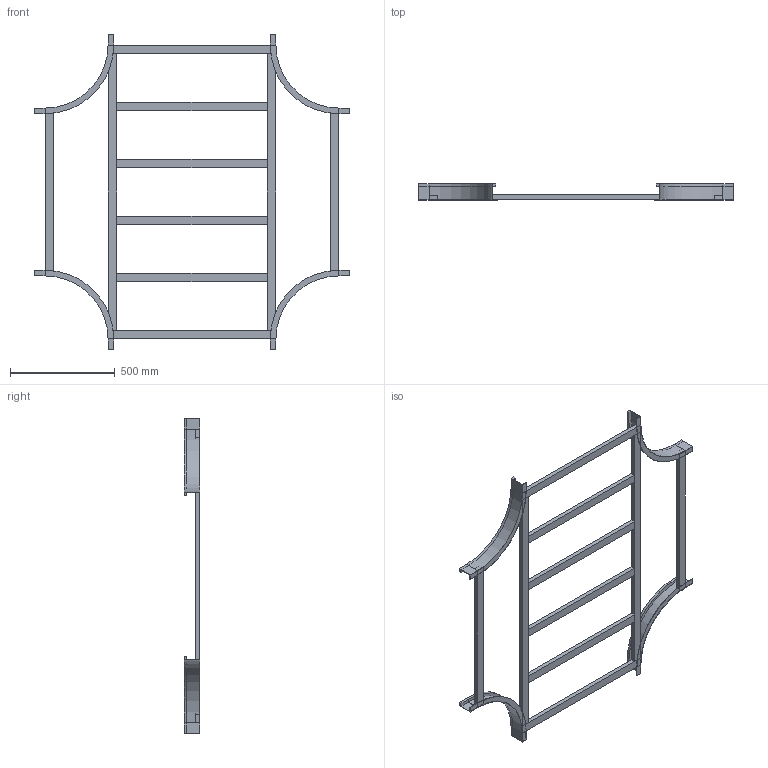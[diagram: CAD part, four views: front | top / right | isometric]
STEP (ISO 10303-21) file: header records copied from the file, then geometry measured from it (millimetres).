
FILE_DESCRIPTION (( 'STEP AP214' ), '1' );
FILE_NAME ('B2_17B3C800.step', '2025-02-21T15:59:24', ( '' ), ( '' ), 'SwSTEP 2.0', 'SolidWorks 2023', '' );
FILE_SCHEMA (( 'AUTOMOTIVE_DESIGN' ));
Length unit declared in the file: millimetre
Products named in the file (5): B2_TRAVERSINO_LONG._R300+800; B2_LONGH.INTERNO 90°_H75_R300; TRAVERSINO_800; B2_17B3C800; TRAVERSINO_INTERMEDIO_R300+800
Assembly tree (14 placements, depth 2):
  B2_17B3C800
    B2_LONGH.INTERNO 90°_H75_R300  x4
    TRAVERSINO_800  x4
    B2_TRAVERSINO_LONG._R300+800  x2
    TRAVERSINO_INTERMEDIO_R300+800  x4
Bounding box: 1500 x 75 x 1500 mm (x, y, z)
Volume: 7945684.1 mm3; surface area: 1618161.6 mm2
Topology: 14 solids, 14 shells, 164 faces, 344 edges, 208 vertices
Faces by surface type: plane 148, cylinder 16
Entity records: 1370 total; most frequent: DIRECTION 222, CARTESIAN_POINT 209, ORIENTED_EDGE 184, EDGE_CURVE 92, LINE 84, VECTOR 84, AXIS2_PLACEMENT_3D 69, VERTEX_POINT 56
